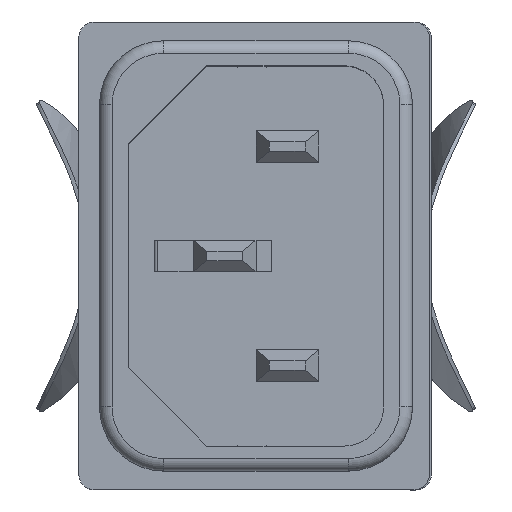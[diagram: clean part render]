
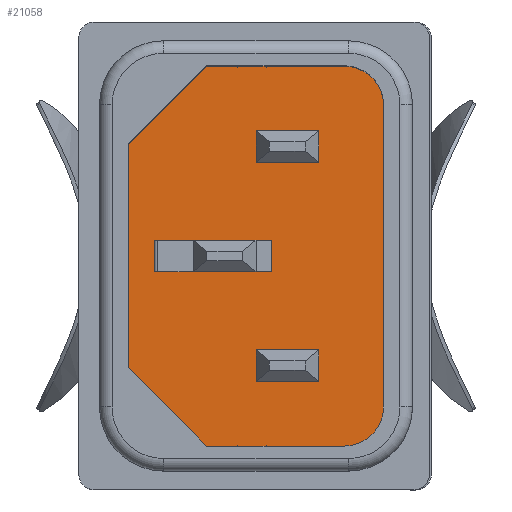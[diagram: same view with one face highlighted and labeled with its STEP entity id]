
A CAD part, top view. The second image highlights one B-rep face of the part: STEP entity #21058.
In plain terms, the highlighted planar face has unit normal (0, 0, 1).
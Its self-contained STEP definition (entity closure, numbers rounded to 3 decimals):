
#18038=CARTESIAN_POINT('',(39.15,47.509,37.5));
#18039=VERTEX_POINT('',#18038);
#18040=CARTESIAN_POINT('',(35.15,47.509,37.5));
#18041=VERTEX_POINT('',#18040);
#18042=CARTESIAN_POINT('',(39.15,47.509,37.5));
#18043=DIRECTION('',(-1.0,0.0,0.0));
#18044=VECTOR('',#18043,4.0);
#18045=LINE('',#18042,#18044);
#18046=EDGE_CURVE('',#18039,#18041,#18045,.T.);
#18188=CARTESIAN_POINT('',(35.15,49.509,37.5));
#18189=VERTEX_POINT('',#18188);
#18190=CARTESIAN_POINT('',(39.15,49.509,37.5));
#18191=VERTEX_POINT('',#18190);
#18192=CARTESIAN_POINT('',(35.15,49.509,37.5));
#18193=DIRECTION('',(1.0,0.0,0.0));
#18194=VECTOR('',#18193,4.0);
#18195=LINE('',#18192,#18194);
#18196=EDGE_CURVE('',#18189,#18191,#18195,.T.);
#18222=CARTESIAN_POINT('',(39.15,49.509,37.5));
#18223=DIRECTION('',(0.0,-1.0,0.0));
#18224=VECTOR('',#18223,2.0);
#18225=LINE('',#18222,#18224);
#18226=EDGE_CURVE('',#18191,#18039,#18225,.T.);
#18254=CARTESIAN_POINT('',(35.15,47.509,37.5));
#18255=DIRECTION('',(0.0,1.0,0.0));
#18256=VECTOR('',#18255,2.0);
#18257=LINE('',#18254,#18256);
#18258=EDGE_CURVE('',#18041,#18189,#18257,.T.);
#18377=CARTESIAN_POINT('',(29.099,40.509,37.5));
#18378=VERTEX_POINT('',#18377);
#18379=CARTESIAN_POINT('',(29.099,42.509,37.5));
#18380=VERTEX_POINT('',#18379);
#18381=CARTESIAN_POINT('',(29.099,40.509,37.5));
#18382=DIRECTION('',(0.0,1.0,0.0));
#18383=VECTOR('',#18382,2.);
#18384=LINE('',#18381,#18383);
#18385=EDGE_CURVE('',#18378,#18380,#18384,.T.);
#18449=CARTESIAN_POINT('',(36.15,40.509,37.5));
#18450=VERTEX_POINT('',#18449);
#18451=CARTESIAN_POINT('',(36.15,40.509,37.5));
#18452=DIRECTION('',(-1.0,0.0,0.0));
#18453=VECTOR('',#18452,7.051);
#18454=LINE('',#18451,#18453);
#18455=EDGE_CURVE('',#18450,#18378,#18454,.T.);
#18631=CARTESIAN_POINT('',(36.15,42.509,37.5));
#18632=VERTEX_POINT('',#18631);
#18633=CARTESIAN_POINT('',(29.099,42.509,37.5));
#18634=DIRECTION('',(1.0,0.0,0.0));
#18635=VECTOR('',#18634,7.051);
#18636=LINE('',#18633,#18635);
#18637=EDGE_CURVE('',#18380,#18632,#18636,.T.);
#18808=CARTESIAN_POINT('',(36.15,42.509,37.5));
#18809=DIRECTION('',(0.0,-1.0,0.0));
#18810=VECTOR('',#18809,2.);
#18811=LINE('',#18808,#18810);
#18812=EDGE_CURVE('',#18632,#18450,#18811,.T.);
#19091=CARTESIAN_POINT('',(39.15,33.509,37.5));
#19092=VERTEX_POINT('',#19091);
#19093=CARTESIAN_POINT('',(35.15,33.509,37.5));
#19094=VERTEX_POINT('',#19093);
#19095=CARTESIAN_POINT('',(39.15,33.509,37.5));
#19096=DIRECTION('',(-1.0,0.0,0.0));
#19097=VECTOR('',#19096,4.0);
#19098=LINE('',#19095,#19097);
#19099=EDGE_CURVE('',#19092,#19094,#19098,.T.);
#19241=CARTESIAN_POINT('',(35.15,35.509,37.5));
#19242=VERTEX_POINT('',#19241);
#19243=CARTESIAN_POINT('',(39.15,35.509,37.5));
#19244=VERTEX_POINT('',#19243);
#19245=CARTESIAN_POINT('',(35.15,35.509,37.5));
#19246=DIRECTION('',(1.0,0.0,0.0));
#19247=VECTOR('',#19246,4.);
#19248=LINE('',#19245,#19247);
#19249=EDGE_CURVE('',#19242,#19244,#19248,.T.);
#19275=CARTESIAN_POINT('',(39.15,35.509,37.5));
#19276=DIRECTION('',(0.0,-1.0,0.0));
#19277=VECTOR('',#19276,2.0);
#19278=LINE('',#19275,#19277);
#19279=EDGE_CURVE('',#19244,#19092,#19278,.T.);
#19307=CARTESIAN_POINT('',(35.15,33.509,37.5));
#19308=DIRECTION('',(0.0,1.0,0.0));
#19309=VECTOR('',#19308,2.0);
#19310=LINE('',#19307,#19309);
#19311=EDGE_CURVE('',#19094,#19242,#19310,.T.);
#20836=CARTESIAN_POINT('',(40.8,29.359,37.5));
#20837=VERTEX_POINT('',#20836);
#20838=CARTESIAN_POINT('',(43.3,31.859,37.5));
#20839=VERTEX_POINT('',#20838);
#20840=CARTESIAN_POINT('',(40.8,31.859,37.5));
#20841=DIRECTION('',(0.0,0.0,1.0));
#20842=DIRECTION('',(0.0,-1.0,0.0));
#20843=AXIS2_PLACEMENT_3D('',#20840,#20841,#20842);
#20844=CIRCLE('',#20843,2.5);
#20845=EDGE_CURVE('',#20837,#20839,#20844,.T.);
#20868=CARTESIAN_POINT('',(43.3,51.159,37.5));
#20869=VERTEX_POINT('',#20868);
#20870=CARTESIAN_POINT('',(43.3,31.859,37.5));
#20871=DIRECTION('',(0.0,1.0,0.0));
#20872=VECTOR('',#20871,19.3);
#20873=LINE('',#20870,#20872);
#20874=EDGE_CURVE('',#20839,#20869,#20873,.T.);
#20892=CARTESIAN_POINT('',(40.8,53.659,37.5));
#20893=VERTEX_POINT('',#20892);
#20894=CARTESIAN_POINT('',(40.8,51.159,37.5));
#20895=DIRECTION('',(0.0,0.0,1.0));
#20896=DIRECTION('',(1.0,0.0,0.0));
#20897=AXIS2_PLACEMENT_3D('',#20894,#20895,#20896);
#20898=CIRCLE('',#20897,2.5);
#20899=EDGE_CURVE('',#20869,#20893,#20898,.T.);
#20917=CARTESIAN_POINT('',(32.,53.659,37.5));
#20918=VERTEX_POINT('',#20917);
#20919=CARTESIAN_POINT('',(40.8,53.659,37.5));
#20920=DIRECTION('',(-1.0,0.0,0.0));
#20921=VECTOR('',#20920,8.8);
#20922=LINE('',#20919,#20921);
#20923=EDGE_CURVE('',#20893,#20918,#20922,.T.);
#20941=CARTESIAN_POINT('',(27.,48.659,37.5));
#20942=VERTEX_POINT('',#20941);
#20943=CARTESIAN_POINT('',(32.,53.659,37.5));
#20944=DIRECTION('',(-0.707,-0.707,0.0));
#20945=VECTOR('',#20944,7.071);
#20946=LINE('',#20943,#20945);
#20947=EDGE_CURVE('',#20918,#20942,#20946,.T.);
#20965=CARTESIAN_POINT('',(27.,34.359,37.5));
#20966=VERTEX_POINT('',#20965);
#20967=CARTESIAN_POINT('',(27.,48.659,37.5));
#20968=DIRECTION('',(0.0,-1.0,0.0));
#20969=VECTOR('',#20968,14.3);
#20970=LINE('',#20967,#20969);
#20971=EDGE_CURVE('',#20942,#20966,#20970,.T.);
#20989=CARTESIAN_POINT('',(32.,29.359,37.5));
#20990=VERTEX_POINT('',#20989);
#20991=CARTESIAN_POINT('',(27.,34.359,37.5));
#20992=DIRECTION('',(0.707,-0.707,0.0));
#20993=VECTOR('',#20992,7.071);
#20994=LINE('',#20991,#20993);
#20995=EDGE_CURVE('',#20966,#20990,#20994,.T.);
#21013=CARTESIAN_POINT('',(32.,29.359,37.5));
#21014=DIRECTION('',(1.0,0.0,0.0));
#21015=VECTOR('',#21014,8.8);
#21016=LINE('',#21013,#21015);
#21017=EDGE_CURVE('',#20990,#20837,#21016,.T.);
#21025=CARTESIAN_POINT('',(35.689,41.509,37.5));
#21026=DIRECTION('',(0.0,0.0,-1.0));
#21027=DIRECTION('',(1.0,0.0,0.0));
#21028=AXIS2_PLACEMENT_3D('',#21025,#21026,#21027);
#21029=PLANE('',#21028);
#21030=ORIENTED_EDGE('',*,*,#20845,.T.);
#21031=ORIENTED_EDGE('',*,*,#20874,.T.);
#21032=ORIENTED_EDGE('',*,*,#20899,.T.);
#21033=ORIENTED_EDGE('',*,*,#20923,.T.);
#21034=ORIENTED_EDGE('',*,*,#20947,.T.);
#21035=ORIENTED_EDGE('',*,*,#20971,.T.);
#21036=ORIENTED_EDGE('',*,*,#20995,.T.);
#21037=ORIENTED_EDGE('',*,*,#21017,.T.);
#21038=EDGE_LOOP('',(#21030,#21031,#21032,#21033,#21034,#21035,#21036,#21037));
#21039=FACE_OUTER_BOUND('',#21038,.T.);
#21040=ORIENTED_EDGE('',*,*,#18196,.T.);
#21041=ORIENTED_EDGE('',*,*,#18226,.T.);
#21042=ORIENTED_EDGE('',*,*,#18046,.T.);
#21043=ORIENTED_EDGE('',*,*,#18258,.T.);
#21044=EDGE_LOOP('',(#21040,#21041,#21042,#21043));
#21045=FACE_BOUND('',#21044,.T.);
#21046=ORIENTED_EDGE('',*,*,#18455,.T.);
#21047=ORIENTED_EDGE('',*,*,#18385,.T.);
#21048=ORIENTED_EDGE('',*,*,#18637,.T.);
#21049=ORIENTED_EDGE('',*,*,#18812,.T.);
#21050=EDGE_LOOP('',(#21046,#21047,#21048,#21049));
#21051=FACE_BOUND('',#21050,.T.);
#21052=ORIENTED_EDGE('',*,*,#19249,.T.);
#21053=ORIENTED_EDGE('',*,*,#19279,.T.);
#21054=ORIENTED_EDGE('',*,*,#19099,.T.);
#21055=ORIENTED_EDGE('',*,*,#19311,.T.);
#21056=EDGE_LOOP('',(#21052,#21053,#21054,#21055));
#21057=FACE_BOUND('',#21056,.T.);
#21058=ADVANCED_FACE('',(#21039,#21045,#21051,#21057),#21029,.F.);
